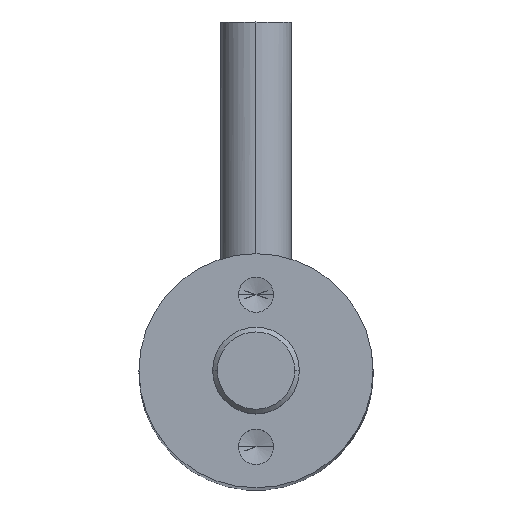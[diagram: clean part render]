
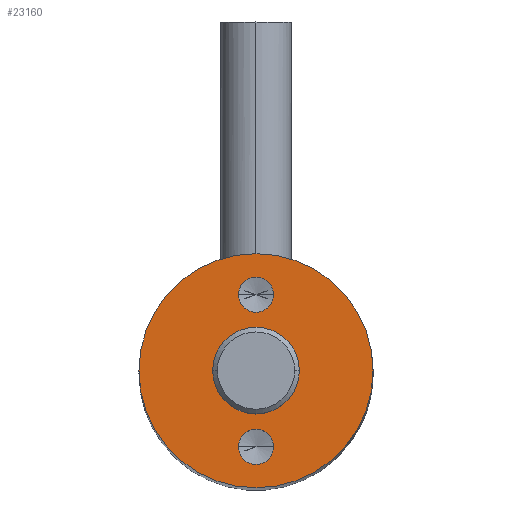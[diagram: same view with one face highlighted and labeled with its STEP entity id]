
A CAD part, top view. The second image highlights one B-rep face of the part: STEP entity #23160.
In plain terms, the highlighted planar face has unit normal (0, 0, 1).
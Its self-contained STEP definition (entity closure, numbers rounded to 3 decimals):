
#673 = CIRCLE ( 'NONE', #21336, 0.75 ) ;
#751 = VERTEX_POINT ( 'NONE', #18327 ) ;
#1341 = CARTESIAN_POINT ( 'NONE',  ( 0., 0., 64.5 ) ) ;
#1481 = CARTESIAN_POINT ( 'NONE',  ( 0., 3.25, 64.5 ) ) ;
#2000 = EDGE_CURVE ( 'NONE', #22004, #4551, #30613, .T. ) ;
#2357 = AXIS2_PLACEMENT_3D ( 'NONE', #21961, #16145, #3989 ) ;
#2596 = DIRECTION ( 'NONE',  ( 0., 0., 1. ) ) ;
#2721 = DIRECTION ( 'NONE',  ( 1., 0., 0. ) ) ;
#2888 = DIRECTION ( 'NONE',  ( 1., 0., 0. ) ) ;
#2897 = CARTESIAN_POINT ( 'NONE',  ( 0., 0., 64.5 ) ) ;
#2969 = FACE_OUTER_BOUND ( 'NONE', #35238, .T. ) ;
#3534 = CARTESIAN_POINT ( 'NONE',  ( 1.85, 0., 64.5 ) ) ;
#3989 = DIRECTION ( 'NONE',  ( 1., 0., 0. ) ) ;
#4245 = CARTESIAN_POINT ( 'NONE',  ( 0.75, 3.25, 64.5 ) ) ;
#4480 = DIRECTION ( 'NONE',  ( 0., 0., 1. ) ) ;
#4551 = VERTEX_POINT ( 'NONE', #27383 ) ;
#4607 = EDGE_CURVE ( 'NONE', #28495, #24039, #23047, .T. ) ;
#6104 = VERTEX_POINT ( 'NONE', #24969 ) ;
#6732 = FACE_BOUND ( 'NONE', #30737, .T. ) ;
#6841 = DIRECTION ( 'NONE',  ( 1., 0., 0. ) ) ;
#7648 = FACE_BOUND ( 'NONE', #23594, .T. ) ;
#7732 = AXIS2_PLACEMENT_3D ( 'NONE', #2897, #26608, #14832 ) ;
#8186 = AXIS2_PLACEMENT_3D ( 'NONE', #14410, #2596, #2721 ) ;
#8298 = EDGE_CURVE ( 'NONE', #4551, #22004, #10122, .T. ) ;
#9635 = CARTESIAN_POINT ( 'NONE',  ( 5., 0., 64.5 ) ) ;
#9775 = DIRECTION ( 'NONE',  ( 1., 0., 0. ) ) ;
#10122 = CIRCLE ( 'NONE', #38145, 5. ) ;
#10870 = EDGE_CURVE ( 'NONE', #31102, #6104, #12431, .T. ) ;
#11607 = CARTESIAN_POINT ( 'NONE',  ( 0., -3.25, 64.5 ) ) ;
#12431 = CIRCLE ( 'NONE', #2357, 0.75 ) ;
#12503 = DIRECTION ( 'NONE',  ( 0., 0., 1. ) ) ;
#13238 = ORIENTED_EDGE ( 'NONE', *, *, #26618, .F. ) ;
#14410 = CARTESIAN_POINT ( 'NONE',  ( 0., 0., 64.5 ) ) ;
#14832 = DIRECTION ( 'NONE',  ( 1., 0., 0. ) ) ;
#15642 = ORIENTED_EDGE ( 'NONE', *, *, #4607, .F. ) ;
#15928 = CIRCLE ( 'NONE', #7732, 1.85 ) ;
#16145 = DIRECTION ( 'NONE',  ( 0., 0., 1. ) ) ;
#16213 = EDGE_LOOP ( 'NONE', ( #31927, #32847 ) ) ;
#16637 = CARTESIAN_POINT ( 'NONE',  ( 0.75, -3.25, 64.5 ) ) ;
#16869 = FACE_BOUND ( 'NONE', #16213, .T. ) ;
#16876 = DIRECTION ( 'NONE',  ( 1., 0., 0. ) ) ;
#17246 = PLANE ( 'NONE',  #8186 ) ;
#17388 = DIRECTION ( 'NONE',  ( 0., 0., 1. ) ) ;
#17446 = EDGE_CURVE ( 'NONE', #36945, #751, #17868, .T. ) ;
#17658 = DIRECTION ( 'NONE',  ( 0., 0., 1. ) ) ;
#17868 = CIRCLE ( 'NONE', #33743, 0.75 ) ;
#17994 = AXIS2_PLACEMENT_3D ( 'NONE', #27248, #27504, #9775 ) ;
#18327 = CARTESIAN_POINT ( 'NONE',  ( -0.75, -3.25, 64.5 ) ) ;
#18867 = DIRECTION ( 'NONE',  ( 1., 0., 0. ) ) ;
#19072 = ORIENTED_EDGE ( 'NONE', *, *, #28370, .F. ) ;
#21336 = AXIS2_PLACEMENT_3D ( 'NONE', #1481, #4480, #18867 ) ;
#21899 = ORIENTED_EDGE ( 'NONE', *, *, #8298, .T. ) ;
#21961 = CARTESIAN_POINT ( 'NONE',  ( 0., 3.25, 64.5 ) ) ;
#22004 = VERTEX_POINT ( 'NONE', #9635 ) ;
#22260 = CARTESIAN_POINT ( 'NONE',  ( -1.85, 0., 64.5 ) ) ;
#22504 = EDGE_CURVE ( 'NONE', #6104, #31102, #673, .T. ) ;
#22893 = AXIS2_PLACEMENT_3D ( 'NONE', #35166, #17388, #16876 ) ;
#23047 = CIRCLE ( 'NONE', #17994, 1.85 ) ;
#23160 = ADVANCED_FACE ( 'NONE', ( #6732, #16869, #7648, #2969 ), #17246, .T. ) ;
#23594 = EDGE_LOOP ( 'NONE', ( #13238, #15642 ) ) ;
#24039 = VERTEX_POINT ( 'NONE', #22260 ) ;
#24969 = CARTESIAN_POINT ( 'NONE',  ( -0.75, 3.25, 64.5 ) ) ;
#25648 = CIRCLE ( 'NONE', #37296, 0.75 ) ;
#26608 = DIRECTION ( 'NONE',  ( 0., 0., 1. ) ) ;
#26618 = EDGE_CURVE ( 'NONE', #24039, #28495, #15928, .T. ) ;
#27248 = CARTESIAN_POINT ( 'NONE',  ( 0., 0., 64.5 ) ) ;
#27383 = CARTESIAN_POINT ( 'NONE',  ( -5., 0., 64.5 ) ) ;
#27425 = DIRECTION ( 'NONE',  ( 0., 0., 1. ) ) ;
#27503 = CARTESIAN_POINT ( 'NONE',  ( 0., -3.25, 64.5 ) ) ;
#27504 = DIRECTION ( 'NONE',  ( 0., 0., 1. ) ) ;
#28370 = EDGE_CURVE ( 'NONE', #751, #36945, #25648, .T. ) ;
#28495 = VERTEX_POINT ( 'NONE', #3534 ) ;
#29019 = ORIENTED_EDGE ( 'NONE', *, *, #2000, .T. ) ;
#30613 = CIRCLE ( 'NONE', #22893, 5. ) ;
#30737 = EDGE_LOOP ( 'NONE', ( #31895, #19072 ) ) ;
#31102 = VERTEX_POINT ( 'NONE', #4245 ) ;
#31895 = ORIENTED_EDGE ( 'NONE', *, *, #17446, .F. ) ;
#31927 = ORIENTED_EDGE ( 'NONE', *, *, #10870, .F. ) ;
#32847 = ORIENTED_EDGE ( 'NONE', *, *, #22504, .F. ) ;
#33743 = AXIS2_PLACEMENT_3D ( 'NONE', #11607, #17658, #2888 ) ;
#35166 = CARTESIAN_POINT ( 'NONE',  ( 0., 0., 64.5 ) ) ;
#35238 = EDGE_LOOP ( 'NONE', ( #21899, #29019 ) ) ;
#36471 = DIRECTION ( 'NONE',  ( 1., 0., 0. ) ) ;
#36945 = VERTEX_POINT ( 'NONE', #16637 ) ;
#37296 = AXIS2_PLACEMENT_3D ( 'NONE', #27503, #12503, #36471 ) ;
#38145 = AXIS2_PLACEMENT_3D ( 'NONE', #1341, #27425, #6841 ) ;
